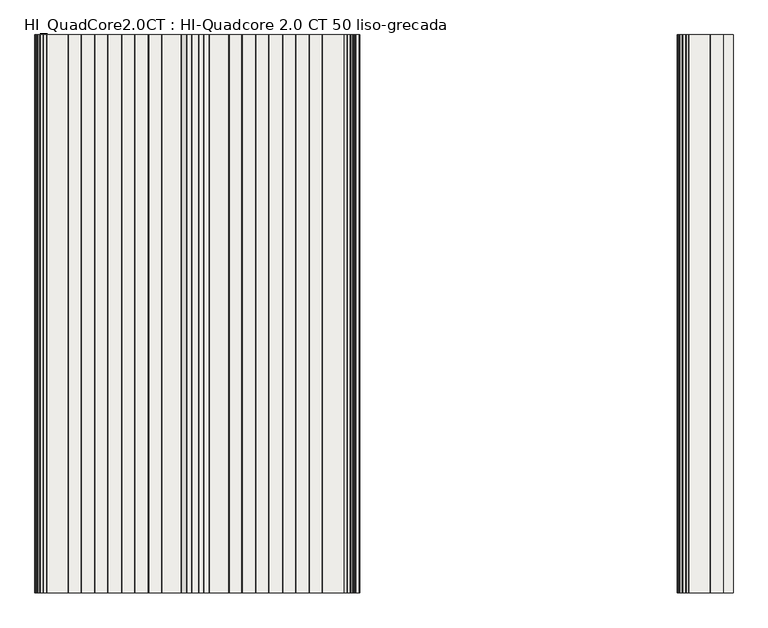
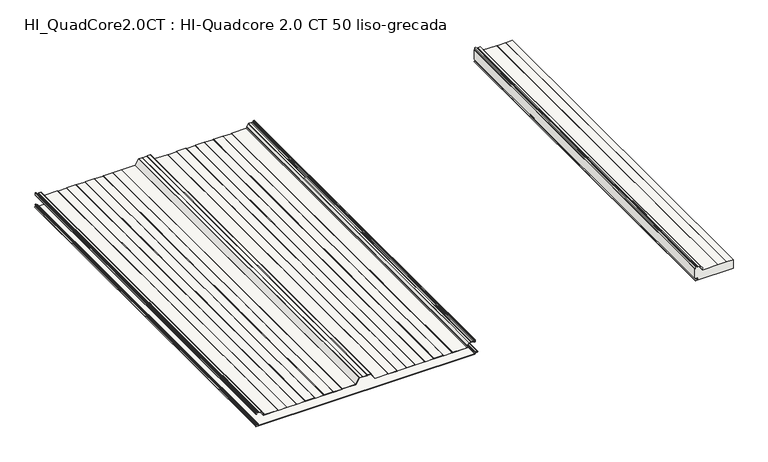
"""IFC4 building model written with IfcOpenShell, lengths in millimetres: slab geometry, HI_QuadCore2.0CT : HI-Quadcore 2.0 CT 50 liso-grecada."""

from ifc_helpers import new_model, si_unit, point, frame, frame_2d, origin, place, context, project, spatial, polyline, circle_curve, trimmed, segment, composite_curve, outline, extrude, source, transform, mapped, element, save
from ifc_brep_helpers import plane_surface, cylinder_surface, revolved_surface, advanced_brep


def hi_quadcore2_0ct_hi_quadcore_2_0_ct_50_liso_grecada_d0412549(model_context):
    return source(origin(), model_context, "Body", "SolidModel", [
        advanced_brep(
        [(2305.1475465, 0.0, 65.7425833), (2301.3824194, 0.0, 67.9163804), (2300.0, 0.0, 67.9163804), (2300.0, 0.0, 16.239302), (2307.510215, 0.0, 16.239302), (2307.510215, 0.0, 15.4391074), (2303.6125693, 0.0, 15.4391074), (2302.4319301, 0.0, 14.2584682), (2303.4276302, 0.0, 13.0866965), (2311.8278581, 0.0, 11.7547343), (2311.7995989, 0.0, 4.4809044), (2301.8467032, 0.0, 2.9844289), (2302.0100062, 0.0, 0.8), (2500.0, 0.0, 0.8), (2500.0, 0.0, 49.2), (2467.3816122, 0.0, 49.2), (2465.6495614, 0.0, 48.2), (2420.6152775, 0.0, 48.2), (2418.8832267, 0.0, 49.2), (2342.7795617, 0.0, 49.2), (2339.9577511, 0.0, 56.2744555), (2340.9081159, 0.0, 57.0692788), (2341.1089583, 0.0, 58.5361221), (2331.7709236, 0.0, 72.1230469), (2330.8643848, 0.0, 72.6), (2321.5371875, 0.0, 72.6), (2319.8324194, 0.0, 71.8110374), (2318.1276514, 0.0, 72.6), (2311.4016791, 0.0, 72.6), (2309.2490397, 0.0, 74.0383476), (2307.3922843, 0.0, 78.5209518), (2306.3760168, 0.0, 79.2), (2302.7824194, 0.0, 79.2), (2301.6824194, 0.0, 78.1), (2301.6824194, 0.0, 68.6669358), (2305.5475465, 0.0, 66.4354036), (2305.1475465, 2000.0, 65.7425833), (2305.5475465, 2000.0, 66.4354036), (2301.6824194, 2000.0, 68.6669358), (2301.6824194, 2000.0, 78.1), (2302.7824194, 2000.0, 79.2), (2306.3760168, 2000.0, 79.2), (2307.3922843, 2000.0, 78.5209518), (2309.2490397, 2000.0, 74.0383476), (2311.4016791, 2000.0, 72.6), (2318.1276514, 2000.0, 72.6), (2319.8324194, 2000.0, 71.8110374), (2321.5371875, 2000.0, 72.6), (2330.8643848, 2000.0, 72.6), (2331.7709236, 2000.0, 72.1230469), (2341.1089583, 2000.0, 58.5361221), (2340.9081159, 2000.0, 57.0692788), (2339.9577511, 2000.0, 56.2744555), (2342.7795617, 2000.0, 49.2), (2418.8832267, 2000.0, 49.2), (2420.6152775, 2000.0, 48.2), (2465.6495614, 2000.0, 48.2), (2467.3816122, 2000.0, 49.2), (2500.0, 2000.0, 49.2), (2500.0, 2000.0, 0.8), (2302.0100062, 2000.0, 0.8), (2301.8467032, 2000.0, 2.9844289), (2311.7995989, 2000.0, 4.4809044), (2311.8278581, 2000.0, 11.7547343), (2303.4273037, 2000.0, 13.0846342), (2302.4319301, 2000.0, 14.2584682), (2303.6125693, 2000.0, 15.4391074), (2307.510215, 2000.0, 15.4391074), (2307.510215, 2000.0, 16.239302), (2300.0, 2000.0, 16.239302), (2300.0, 2000.0, 67.9163804), (2301.3824194, 2000.0, 67.9163804)],
        [
            (0, 1),
            (1, 2),
            (2, 3),
            (3, 4),
            (4, 5),
            (5, 6),
            (6, 7, circle_curve(frame((2303.6125693, 0.0, 14.2584682), z_axis=(0.0, -1.0, 0.0), x_axis=(1.0, 0.0, 0.0)), 1.1806391)),
            (7, 8, circle_curve(frame((2303.6121809, 0.0, 14.2524448), z_axis=(0.0, -1.0, 0.0), x_axis=(1.0, 0.0, 0.0)), 1.1802661)),
            (8, 9),
            (9, 10, circle_curve(frame((2311.2524398, 0.0, 8.12), z_axis=(0.0, 1.0, 0.0), x_axis=(1.0, 0.0, 0.0)), 3.68)),
            (10, 11),
            (11, 12, circle_curve(frame((2302.0100062, 0.0, 1.8983185), z_axis=(0.0, -1.0, 0.0), x_axis=(1.0, 0.0, 0.0)), 1.0983185)),
            (12, 13),
            (13, 14),
            (14, 15),
            (15, 16),
            (16, 17),
            (17, 18),
            (18, 19),
            (19, 20, circle_curve(frame((2342.7795617, 0.0, 53.3), z_axis=(0.0, 1.0, 0.0), x_axis=(1.0, 0.0, 0.0)), 4.1)),
            (20, 21),
            (21, 22, circle_curve(frame((2340.2024195, 0.0, 57.9130752), z_axis=(0.0, -1.0, 0.0), x_axis=(1.0, 0.0, 0.0)), 1.1)),
            (22, 23),
            (23, 24, circle_curve(frame((2330.8643848, 0.0, 71.5), z_axis=(0.0, -1.0, 0.0), x_axis=(1.0, 0.0, 0.0)), 1.1)),
            (24, 25),
            (25, 26),
            (26, 27),
            (27, 28),
            (28, 29, circle_curve(frame((2311.4016791, 0.0, 74.93), z_axis=(0.0, 1.0, 0.0), x_axis=(1.0, 0.0, 0.0)), 2.33)),
            (29, 30),
            (30, 31, circle_curve(frame((2306.3760168, 0.0, 78.1), z_axis=(0.0, -1.0, 0.0), x_axis=(1.0, 0.0, 0.0)), 1.1)),
            (31, 32),
            (32, 33, circle_curve(frame((2302.7824194, 0.0, 78.1), z_axis=(0.0, -1.0, 0.0), x_axis=(1.0, 0.0, 0.0)), 1.1)),
            (33, 34),
            (34, 35),
            (35, 0),
            (36, 37),
            (37, 38),
            (38, 39),
            (39, 40, circle_curve(frame((2302.7824194, 2000.0, 78.1), z_axis=(0.0, 1.0, 0.0), x_axis=(1.0, 0.0, 0.0)), 1.1)),
            (40, 41),
            (41, 42, circle_curve(frame((2306.3760168, 2000.0, 78.1), z_axis=(0.0, 1.0, 0.0), x_axis=(1.0, 0.0, 0.0)), 1.1)),
            (42, 43),
            (43, 44, circle_curve(frame((2311.4016791, 2000.0, 74.93), z_axis=(0.0, -1.0, 0.0), x_axis=(1.0, 0.0, 0.0)), 2.33)),
            (44, 45),
            (45, 46),
            (46, 47),
            (47, 48),
            (48, 49, circle_curve(frame((2330.8643848, 2000.0, 71.5), z_axis=(0.0, 1.0, 0.0), x_axis=(1.0, 0.0, 0.0)), 1.1)),
            (49, 50),
            (50, 51, circle_curve(frame((2340.2024195, 2000.0, 57.9130752), z_axis=(0.0, 1.0, 0.0), x_axis=(1.0, 0.0, 0.0)), 1.1)),
            (51, 52),
            (52, 53, circle_curve(frame((2342.7795617, 2000.0, 53.3), z_axis=(0.0, -1.0, 0.0), x_axis=(1.0, 0.0, 0.0)), 4.1)),
            (53, 54),
            (54, 55),
            (55, 56),
            (56, 57),
            (57, 58),
            (58, 59),
            (59, 60),
            (60, 61, circle_curve(frame((2302.0100062, 2000.0, 1.8983185), z_axis=(0.0, 1.0, 0.0), x_axis=(1.0, 0.0, 0.0)), 1.0983185)),
            (61, 62),
            (62, 63, circle_curve(frame((2311.2524398, 2000.0, 8.12), z_axis=(0.0, -1.0, 0.0), x_axis=(1.0, 0.0, 0.0)), 3.68)),
            (63, 64),
            (64, 65, circle_curve(frame((2303.6121809, 2000.0, 14.2524448), z_axis=(0.0, 1.0, 0.0), x_axis=(1.0, 0.0, 0.0)), 1.1802661)),
            (65, 66, circle_curve(frame((2303.6125693, 2000.0, 14.2584682), z_axis=(0.0, 1.0, 0.0), x_axis=(1.0, 0.0, 0.0)), 1.1806391)),
            (66, 67),
            (67, 68),
            (68, 69),
            (69, 70),
            (70, 71),
            (71, 36),
            (0, 36),
            (71, 1),
            (70, 2),
            (69, 3),
            (57, 15),
            (14, 58),
            (56, 16),
            (55, 17),
            (54, 18),
            (53, 19),
            (52, 20),
            (51, 21),
            (50, 22),
            (49, 23),
            (48, 24),
            (47, 25),
            (46, 26),
            (45, 27),
            (44, 28),
            (43, 29),
            (42, 30),
            (41, 31),
            (40, 32),
            (39, 33),
            (38, 34),
            (37, 35),
            (68, 4),
            (67, 5),
            (66, 6),
            (65, 7),
            (64, 8),
            (63, 9),
            (62, 10),
            (61, 11),
            (60, 12),
            (59, 13),
        ],
        [
            plane_surface(frame((2301.3824194, 0.0, 67.9163804), z_axis=(0.0, -1.0, 0.0), x_axis=(-0.8660254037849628, 0.0, 0.49999999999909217))),
            plane_surface(frame((2301.3824194, 2000.0, 67.9163804), z_axis=(0.0, 1.0, 0.0), x_axis=(0.8660254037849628, 0.0, -0.49999999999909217))),
            plane_surface(frame((2305.1475465, 0.0, 65.7425833), z_axis=(0.49999999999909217, 0.0, 0.8660254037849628), x_axis=(0.0, 1.0, 0.0))),
            plane_surface(frame((2301.3824194, 0.0, 67.9163804), z_axis=(0.0, 0.0, 1.0), x_axis=(0.0, 1.0, 0.0))),
            plane_surface(frame((2300.0, 0.0, 67.9163804), z_axis=(-1.0, 0.0, 0.0), x_axis=(0.0, 1.0, 0.0))),
            plane_surface(frame((2514.8832267, 0.0, 49.2), z_axis=(0.0, 0.0, 1.0), x_axis=(0.0, 1.0, 0.0))),
            plane_surface(frame((2467.3816122, 0.0, 49.2), z_axis=(-0.5000000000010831, 0.0, 0.8660254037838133), x_axis=(0.0, 1.0, 0.0))),
            plane_surface(frame((2465.6495614, 0.0, 48.2), z_axis=(0.0, 0.0, 1.0), x_axis=(0.0, 1.0, 0.0))),
            plane_surface(frame((2420.6152775, 0.0, 48.2), z_axis=(0.4999999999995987, 0.0, 0.8660254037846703), x_axis=(0.0, 1.0, 0.0))),
            plane_surface(frame((2418.8832267, 0.0, 49.2), z_axis=(0.0, 0.0, 1.0), x_axis=(0.0, 1.0, 0.0))),
            revolved_surface(polyline([(2346.8795617, 2000.0, 53.3), (2346.8795617, 0.0, 53.3)]), (2342.7795617, 2000.0, 53.3), (0.0, 1.0, 0.0)),
            plane_surface(frame((2339.9577511, 0.0, 56.2744555), z_axis=(0.6415422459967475, 0.0, -0.7670877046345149), x_axis=(0.0, 1.0, 0.0))),
            cylinder_surface(frame((2340.2024195, 2000.0, 57.9130752), z_axis=(0.0, -1.0, 0.0), x_axis=(1.0, 0.0, 0.0)), 1.1),
            plane_surface(frame((2341.1089583, 0.0, 58.5361221), z_axis=(0.8241261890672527, 0.0, 0.5664062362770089), x_axis=(0.0, 1.0, 0.0))),
            cylinder_surface(frame((2330.8643848, 2000.0, 71.5), z_axis=(0.0, -1.0, 0.0), x_axis=(1.0, 0.0, 0.0)), 1.1),
            plane_surface(frame((2330.8643848, 0.0, 72.6), z_axis=(0.0, 0.0, 1.0), x_axis=(0.0, 1.0, 0.0))),
            plane_surface(frame((2321.5371875, 0.0, 72.6), z_axis=(-0.4199999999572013, 0.0, 0.9075241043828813), x_axis=(0.0, 1.0, 0.0))),
            plane_surface(frame((2319.8324194, 0.0, 71.8110374), z_axis=(0.4200000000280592, 0.0, 0.9075241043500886), x_axis=(0.0, 1.0, 0.0))),
            plane_surface(frame((2318.1276514, 0.0, 72.6), z_axis=(0.0, 0.0, 1.0), x_axis=(0.0, 1.0, 0.0))),
            revolved_surface(polyline([(2313.7316791, 2000.0, 74.93), (2313.7316791, 0.0, 74.93)]), (2311.4016791, 2000.0, 74.93), (0.0, 1.0, 0.0)),
            plane_surface(frame((2309.2490397, 0.0, 74.0383476), z_axis=(0.9238795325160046, 0.0, 0.3826834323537), x_axis=(0.0, 1.0, 0.0))),
            cylinder_surface(frame((2306.3760168, 2000.0, 78.1), z_axis=(0.0, -1.0, 0.0), x_axis=(1.0, 0.0, 0.0)), 1.1),
            plane_surface(frame((2306.3760168, 0.0, 79.2), z_axis=(0.0, 0.0, 1.0), x_axis=(0.0, 1.0, 0.0))),
            cylinder_surface(frame((2302.7824194, 2000.0, 78.1), z_axis=(0.0, -1.0, 0.0), x_axis=(1.0, 0.0, 0.0)), 1.1),
            plane_surface(frame((2301.6824194, 0.0, 78.1), z_axis=(-1.0, 0.0, 0.0), x_axis=(0.0, 1.0, 0.0))),
            plane_surface(frame((2301.6824194, 0.0, 68.6669358), z_axis=(-0.49999999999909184, 0.0, -0.866025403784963), x_axis=(0.0, 1.0, 0.0))),
            plane_surface(frame((2305.5475465, 0.0, 66.4354036), z_axis=(-0.866025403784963, 0.0, 0.4999999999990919), x_axis=(0.0, 1.0, 0.0))),
            plane_surface(frame((2300.0, 0.0, 16.239302), z_axis=(0.0, 0.0, -1.0), x_axis=(0.0, 1.0, 0.0))),
            plane_surface(frame((2307.510215, 0.0, 16.239302), z_axis=(-1.0, 0.0, 0.0), x_axis=(0.0, 1.0, 0.0))),
            plane_surface(frame((2307.510215, 0.0, 15.4391074), z_axis=(0.0, 0.0, 1.0), x_axis=(0.0, 1.0, 0.0))),
            cylinder_surface(frame((2303.6125693, 2000.0, 14.2584682), z_axis=(0.0, -1.0, 0.0), x_axis=(1.0, 0.0, 0.0)), 1.1806391),
            cylinder_surface(frame((2303.6121809, 2000.0, 14.2524448), z_axis=(0.0, -1.0, 0.0), x_axis=(1.0, 0.0, 0.0)), 1.1802661),
            plane_surface(frame((2303.4273037, 0.0, 13.0846342), z_axis=(-0.1563636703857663, 0.0, -0.9876995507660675), x_axis=(0.0, 1.0, 0.0))),
            revolved_surface(polyline([(2314.9324398, 2000.0, 8.12), (2314.9324398, 0.0, 8.12)]), (2311.2524398, 2000.0, 8.12), (0.0, 1.0, 0.0)),
            plane_surface(frame((2311.7995989, 0.0, 4.4809044), z_axis=(-0.14868453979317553, 0.0, 0.9888846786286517), x_axis=(0.0, 1.0, 0.0))),
            cylinder_surface(frame((2302.0100062, 2000.0, 1.8983185), z_axis=(0.0, -1.0, 0.0), x_axis=(1.0, 0.0, 0.0)), 1.0983185),
            plane_surface(frame((2302.0100062, 0.0, 0.8), z_axis=(0.0, 0.0, -1.0), x_axis=(0.0, 1.0, 0.0))),
            plane_surface(frame((2500.0, 0.0, 96.2714688), z_axis=(1.0, 0.0, 0.0), x_axis=(0.0, 1.0, 0.0))),
        ],
        [
            (0, [[1, 2, 3, 4, 5, 6, 7, 8, 9, 10, 11, 12, 13, 14, 15, 16, 17, 18, 19, 20, 21, 22, 23, 24, 25, 26, 27, 28, 29, 30, 31, 32, 33, 34, 35, 36]]),
            (1, [[37, 38, 39, 40, 41, 42, 43, 44, 45, 46, 47, 48, 49, 50, 51, 52, 53, 54, 55, 56, 57, 58, 59, 60, 61, 62, 63, 64, 65, 66, 67, 68, 69, 70, 71, 72]]),
            (2, [[-1, 73, -72, 74]]),
            (3, [[-2, -74, -71, 75]]),
            (4, [[-75, -70, 76, -3]]),
            (5, [[77, -15, 78, -58]]),
            (6, [[-16, -77, -57, 79]]),
            (7, [[-17, -79, -56, 80]]),
            (8, [[-18, -80, -55, 81]]),
            (9, [[-19, -81, -54, 82]]),
            (10, [[-20, -82, -53, 83]]),
            (11, [[-21, -83, -52, 84]]),
            (12, [[-22, -84, -51, 85]]),
            (13, [[-23, -85, -50, 86]]),
            (14, [[-24, -86, -49, 87]]),
            (15, [[-25, -87, -48, 88]]),
            (16, [[-26, -88, -47, 89]]),
            (17, [[-27, -89, -46, 90]]),
            (18, [[-28, -90, -45, 91]]),
            (19, [[-29, -91, -44, 92]]),
            (20, [[-30, -92, -43, 93]]),
            (21, [[-31, -93, -42, 94]]),
            (22, [[-32, -94, -41, 95]]),
            (23, [[-33, -95, -40, 96]]),
            (24, [[-34, -96, -39, 97]]),
            (25, [[-35, -97, -38, 98]]),
            (26, [[-36, -98, -37, -73]]),
            (27, [[-76, -69, 99, -4]]),
            (28, [[-5, -99, -68, 100]]),
            (29, [[-6, -100, -67, 101]]),
            (30, [[-7, -101, -66, 102]]),
            (31, [[-8, -102, -65, 103]]),
            (32, [[-9, -103, -64, 104]]),
            (33, [[-10, -104, -63, 105]]),
            (34, [[-11, -105, -62, 106]]),
            (35, [[-12, -106, -61, 107]]),
            (36, [[-107, -60, 108, -13]]),
            (37, [[-14, -108, -59, -78]]),
        ],
    ),
        advanced_brep(
        [(3.6125412, 0.0, 16.239302), (1.6320413, 0.0, 14.2588021), (3.3026044, 0.0, 12.2960661), (11.7027672, 0.0, 10.9645747), (11.6806488, 0.0, 5.2720118), (1.7277556, 0.0, 3.7755366), (2.0100062, 0.0, 0.0), (1147.9590685, 0.0, 0.0), (1150.1391392, 0.0, 2.1800708), (1152.6636211, 0.0, 5.0353254), (1160.9083654, 0.0, 6.0356531), (1160.9083654, 0.0, 10.2043469), (1150.9419234, 0.0, 11.413338), (1148.6324398, 0.0, 14.0237344), (1147.5187526, 0.0, 16.24), (1142.7624398, 0.0, 16.24), (1142.7624398, 0.0, 15.44), (1147.2282701, 0.0, 15.44), (1147.8324398, 0.0, 14.0237344), (1150.8450446, 0.0, 10.6192254), (1160.7843299, 0.0, 9.4135286), (1160.7843221, 0.0, 6.8264698), (1152.5664905, 0.0, 5.8294074), (1149.3391392, 0.0, 2.1800708), (1147.9590685, 0.0, 0.8), (2.0100062, 0.0, 0.8), (1.8467032, 0.0, 2.9844289), (11.7995989, 0.0, 4.4809044), (11.8278581, 0.0, 11.7547343), (3.4279307, 0.0, 13.084535), (2.4319301, 0.0, 14.2584682), (3.6125693, 0.0, 15.4391074), (7.510215, 0.0, 15.4391074), (7.510215, 0.0, 16.239302), (3.6125412, 2000.0, 16.239302), (7.510215, 2000.0, 16.239302), (7.510215, 2000.0, 15.4391074), (3.6125693, 2000.0, 15.4391074), (2.4319301, 2000.0, 14.2584682), (3.4276302, 2000.0, 13.0866965), (11.8278581, 2000.0, 11.7547343), (11.7995989, 2000.0, 4.4809044), (1.8467032, 2000.0, 2.9844289), (2.0100062, 2000.0, 0.8), (1147.9590685, 2000.0, 0.8), (1149.3391392, 2000.0, 2.1800708), (1152.5664905, 2000.0, 5.8294074), (1160.7843221, 2000.0, 6.8264698), (1160.7843299, 2000.0, 9.4135286), (1150.8450446, 2000.0, 10.6192254), (1147.8324398, 2000.0, 14.0237344), (1147.2282701, 2000.0, 15.44), (1142.7624398, 2000.0, 15.44), (1142.7624398, 2000.0, 16.24), (1147.5187526, 2000.0, 16.24), (1148.6324398, 2000.0, 14.0237344), (1150.9419234, 2000.0, 11.413338), (1160.9083654, 2000.0, 10.2043469), (1160.9083654, 2000.0, 6.0356531), (1152.6636211, 2000.0, 5.0353254), (1150.1391392, 2000.0, 2.1800708), (1147.9590685, 2000.0, 0.0), (2.0100062, 2000.0, 0.0), (1.7277556, 2000.0, 3.7755366), (11.6806488, 2000.0, 5.2720118), (11.7027672, 2000.0, 10.9645747), (3.3028397, 2000.0, 12.2943753), (1.6320413, 2000.0, 14.2588021)],
        [
            (0, 1, circle_curve(frame((3.6125412, 0.0, 14.2588021), z_axis=(0.0, -1.0, 0.0), x_axis=(1.0, 0.0, 0.0)), 1.9804999)),
            (1, 2, circle_curve(frame((3.612237, 0.0, 14.2519163), z_axis=(0.0, -1.0, 0.0), x_axis=(1.0, 0.0, 0.0)), 1.9802076)),
            (2, 3),
            (3, 4, circle_curve(frame((11.2524398, 0.0, 8.12), z_axis=(0.0, 1.0, 0.0), x_axis=(1.0, 0.0, 0.0)), 2.88)),
            (4, 5),
            (5, 6, circle_curve(frame((2.0100062, 0.0, 1.8983185), z_axis=(0.0, -1.0, 0.0), x_axis=(1.0, 0.0, 0.0)), 1.8983185)),
            (6, 7),
            (7, 8, circle_curve(frame((1147.9590685, 0.0, 2.1800708), z_axis=(0.0, -1.0, 0.0), x_axis=(1.0, 0.0, 0.0)), 2.1800708)),
            (8, 9, circle_curve(frame((1153.0160638, 0.0, 2.1800708), z_axis=(0.0, 1.0, 0.0), x_axis=(1.0, 0.0, 0.0)), 2.8769246)),
            (9, 10),
            (10, 11, circle_curve(frame((1160.5224398, 0.0, 8.12), z_axis=(0.0, -1.0, 0.0), x_axis=(1.0, 0.0, 0.0)), 2.1197737)),
            (11, 12),
            (12, 13, circle_curve(frame((1151.2624398, 0.0, 14.0237344), z_axis=(0.0, 1.0, 0.0), x_axis=(1.0, 0.0, 0.0)), 2.63)),
            (13, 14, circle_curve(frame((1145.8703839, 0.0, 14.0237344), z_axis=(0.0, -1.0, 0.0), x_axis=(1.0, 0.0, 0.0)), 2.7620559)),
            (14, 15),
            (15, 16),
            (16, 17),
            (17, 18, circle_curve(frame((1145.8703839, 0.0, 14.0237344), z_axis=(0.0, 1.0, 0.0), x_axis=(1.0, 0.0, 0.0)), 1.9620559)),
            (18, 19, circle_curve(frame((1151.2624398, 0.0, 14.0237344), z_axis=(0.0, -1.0, 0.0), x_axis=(1.0, 0.0, 0.0)), 3.43)),
            (19, 20),
            (20, 21, circle_curve(frame((1160.5224398, 0.0, 8.12), z_axis=(0.0, 1.0, 0.0), x_axis=(1.0, 0.0, 0.0)), 1.3197737)),
            (21, 22),
            (22, 23, circle_curve(frame((1153.0160638, 0.0, 2.1800708), z_axis=(0.0, -1.0, 0.0), x_axis=(1.0, 0.0, 0.0)), 3.6769246)),
            (23, 24, circle_curve(frame((1147.9590685, 0.0, 2.1800708), z_axis=(0.0, 1.0, 0.0), x_axis=(1.0, 0.0, 0.0)), 1.3800708)),
            (24, 25),
            (25, 26, circle_curve(frame((2.0100062, 0.0, 1.8983185), z_axis=(0.0, 1.0, 0.0), x_axis=(1.0, 0.0, 0.0)), 1.0983185)),
            (26, 27),
            (27, 28, circle_curve(frame((11.2524398, 0.0, 8.12), z_axis=(0.0, -1.0, 0.0), x_axis=(1.0, 0.0, 0.0)), 3.68)),
            (28, 29),
            (29, 30, circle_curve(frame((3.6121809, 0.0, 14.2524448), z_axis=(0.0, 1.0, 0.0), x_axis=(1.0, 0.0, 0.0)), 1.1802661)),
            (30, 31, circle_curve(frame((3.6125693, 0.0, 14.2584682), z_axis=(0.0, 1.0, 0.0), x_axis=(1.0, 0.0, 0.0)), 1.1806391)),
            (31, 32),
            (32, 33),
            (33, 0),
            (34, 35),
            (35, 36),
            (36, 37),
            (37, 38, circle_curve(frame((3.6125693, 2000.0, 14.2584682), z_axis=(0.0, -1.0, 0.0), x_axis=(1.0, 0.0, 0.0)), 1.1806391)),
            (38, 39, circle_curve(frame((3.6121809, 2000.0, 14.2524448), z_axis=(0.0, -1.0, 0.0), x_axis=(1.0, 0.0, 0.0)), 1.1802661)),
            (39, 40),
            (40, 41, circle_curve(frame((11.2524398, 2000.0, 8.12), z_axis=(0.0, 1.0, 0.0), x_axis=(1.0, 0.0, 0.0)), 3.68)),
            (41, 42),
            (42, 43, circle_curve(frame((2.0100062, 2000.0, 1.8983185), z_axis=(0.0, -1.0, 0.0), x_axis=(1.0, 0.0, 0.0)), 1.0983185)),
            (43, 44),
            (44, 45, circle_curve(frame((1147.9590685, 2000.0, 2.1800708), z_axis=(0.0, -1.0, 0.0), x_axis=(1.0, 0.0, 0.0)), 1.3800708)),
            (45, 46, circle_curve(frame((1153.0160638, 2000.0, 2.1800708), z_axis=(0.0, 1.0, 0.0), x_axis=(1.0, 0.0, 0.0)), 3.6769246)),
            (46, 47),
            (47, 48, circle_curve(frame((1160.5224398, 2000.0, 8.12), z_axis=(0.0, -1.0, 0.0), x_axis=(1.0, 0.0, 0.0)), 1.3197737)),
            (48, 49),
            (49, 50, circle_curve(frame((1151.2624398, 2000.0, 14.0237344), z_axis=(0.0, 1.0, 0.0), x_axis=(1.0, 0.0, 0.0)), 3.43)),
            (50, 51, circle_curve(frame((1145.8703839, 2000.0, 14.0237344), z_axis=(0.0, -1.0, 0.0), x_axis=(1.0, 0.0, 0.0)), 1.9620559)),
            (51, 52),
            (52, 53),
            (53, 54),
            (54, 55, circle_curve(frame((1145.8703839, 2000.0, 14.0237344), z_axis=(0.0, 1.0, 0.0), x_axis=(1.0, 0.0, 0.0)), 2.7620559)),
            (55, 56, circle_curve(frame((1151.2624398, 2000.0, 14.0237344), z_axis=(0.0, -1.0, 0.0), x_axis=(1.0, 0.0, 0.0)), 2.63)),
            (56, 57),
            (57, 58, circle_curve(frame((1160.5224398, 2000.0, 8.12), z_axis=(0.0, 1.0, 0.0), x_axis=(1.0, 0.0, 0.0)), 2.1197737)),
            (58, 59),
            (59, 60, circle_curve(frame((1153.0160638, 2000.0, 2.1800708), z_axis=(0.0, -1.0, 0.0), x_axis=(1.0, 0.0, 0.0)), 2.8769246)),
            (60, 61, circle_curve(frame((1147.9590685, 2000.0, 2.1800708), z_axis=(0.0, 1.0, 0.0), x_axis=(1.0, 0.0, 0.0)), 2.1800708)),
            (61, 62),
            (62, 63, circle_curve(frame((2.0100062, 2000.0, 1.8983185), z_axis=(0.0, 1.0, 0.0), x_axis=(1.0, 0.0, 0.0)), 1.8983185)),
            (63, 64),
            (64, 65, circle_curve(frame((11.2524398, 2000.0, 8.12), z_axis=(0.0, -1.0, 0.0), x_axis=(1.0, 0.0, 0.0)), 2.88)),
            (65, 66),
            (66, 67, circle_curve(frame((3.612237, 2000.0, 14.2519163), z_axis=(0.0, 1.0, 0.0), x_axis=(1.0, 0.0, 0.0)), 1.9802076)),
            (67, 34, circle_curve(frame((3.6125412, 2000.0, 14.2588021), z_axis=(0.0, 1.0, 0.0), x_axis=(1.0, 0.0, 0.0)), 1.9804999)),
            (0, 34),
            (67, 1),
            (66, 2),
            (65, 3),
            (64, 4),
            (63, 5),
            (62, 6),
            (61, 7),
            (60, 8),
            (59, 9),
            (58, 10),
            (57, 11),
            (56, 12),
            (55, 13),
            (54, 14),
            (53, 15),
            (52, 16),
            (51, 17),
            (50, 18),
            (49, 19),
            (48, 20),
            (47, 21),
            (46, 22),
            (45, 23),
            (44, 24),
            (43, 25),
            (42, 26),
            (41, 27),
            (40, 28),
            (39, 29),
            (38, 30),
            (37, 31),
            (36, 32),
            (35, 33),
        ],
        [
            plane_surface(frame((5.5930411, 0.0, 14.2588021), z_axis=(0.0, -1.0, 0.0), x_axis=(0.0, 0.0, 1.0))),
            plane_surface(frame((5.5930411, 2000.0, 14.2588021), z_axis=(0.0, 1.0, 0.0), x_axis=(0.0, 0.0, -1.0))),
            cylinder_surface(frame((3.6125412, 2000.0, 14.2588021), z_axis=(0.0, -1.0, 0.0), x_axis=(1.0, 0.0, 0.0)), 1.9804999),
            cylinder_surface(frame((3.612237, 2000.0, 14.2519163), z_axis=(0.0, -1.0, 0.0), x_axis=(1.0, 0.0, 0.0)), 1.9802076),
            plane_surface(frame((3.3028397, 0.0, 12.2943753), z_axis=(-0.15636367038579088, 0.0, -0.9876995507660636), x_axis=(0.0, 1.0, 0.0))),
            revolved_surface(polyline([(14.1324398, 2000.0, 8.12), (14.1324398, 0.0, 8.12)]), (11.2524398, 2000.0, 8.12), (0.0, 1.0, 0.0)),
            plane_surface(frame((11.6806488, 0.0, 5.2720118), z_axis=(-0.14868453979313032, 0.0, 0.9888846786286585), x_axis=(0.0, 1.0, 0.0))),
            cylinder_surface(frame((2.0100062, 2000.0, 1.8983185), z_axis=(0.0, -1.0, 0.0), x_axis=(1.0, 0.0, 0.0)), 1.8983185),
            plane_surface(frame((2.0100062, 0.0, 0.0), z_axis=(0.0, 0.0, -1.0), x_axis=(0.0, 1.0, 0.0))),
            cylinder_surface(frame((1147.9590685, 2000.0, 2.1800708), z_axis=(0.0, -1.0, 0.0), x_axis=(1.0, 0.0, 0.0)), 2.1800708),
            revolved_surface(polyline([(1155.8929884, 2000.0, 2.1800708), (1155.8929884, 0.0, 2.1800708)]), (1153.0160638, 2000.0, 2.1800708), (0.0, 1.0, 0.0)),
            plane_surface(frame((1152.6636211, 0.0, 5.0353254), z_axis=(0.12044584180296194, 0.0, -0.9927198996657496), x_axis=(0.0, 1.0, 0.0))),
            cylinder_surface(frame((1160.5224398, 2000.0, 8.12), z_axis=(0.0, -1.0, 0.0), x_axis=(1.0, 0.0, 0.0)), 2.1197737),
            plane_surface(frame((1160.9083654, 0.0, 10.2043469), z_axis=(0.12042339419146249, 0.0, 0.9927226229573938), x_axis=(0.0, 1.0, 0.0))),
            revolved_surface(polyline([(1153.8924398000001, 2000.0, 14.0237344), (1153.8924398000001, 0.0, 14.0237344)]), (1151.2624398, 2000.0, 14.0237344), (0.0, 1.0, 0.0)),
            cylinder_surface(frame((1145.8703839, 2000.0, 14.0237344), z_axis=(0.0, -1.0, 0.0), x_axis=(1.0, 0.0, 0.0)), 2.7620559),
            plane_surface(frame((1147.5187526, 0.0, 16.24), z_axis=(0.0, 0.0, 1.0), x_axis=(0.0, 1.0, 0.0))),
            plane_surface(frame((1142.7624398, 0.0, 16.24), z_axis=(-1.0, 0.0, 0.0), x_axis=(0.0, 1.0, 0.0))),
            plane_surface(frame((1142.7624398, 0.0, 15.44), z_axis=(0.0, 0.0, -1.0), x_axis=(0.0, 1.0, 0.0))),
            revolved_surface(polyline([(1147.8324398, 2000.0, 14.0237344), (1147.8324398, 0.0, 14.0237344)]), (1145.8703839, 2000.0, 14.0237344), (0.0, 1.0, 0.0)),
            cylinder_surface(frame((1151.2624398, 2000.0, 14.0237344), z_axis=(0.0, -1.0, 0.0), x_axis=(1.0, 0.0, 0.0)), 3.43),
            plane_surface(frame((1150.8450446, 0.0, 10.6192254), z_axis=(-0.12042339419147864, 0.0, -0.9927226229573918), x_axis=(0.0, 1.0, 0.0))),
            revolved_surface(polyline([(1161.8422135, 2000.0, 8.12), (1161.8422135, 0.0, 8.12)]), (1160.5224398, 2000.0, 8.12), (0.0, 1.0, 0.0)),
            plane_surface(frame((1160.7843221, 0.0, 6.8264698), z_axis=(-0.12044584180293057, 0.0, 0.9927198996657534), x_axis=(0.0, 1.0, 0.0))),
            cylinder_surface(frame((1153.0160638, 2000.0, 2.1800708), z_axis=(0.0, -1.0, 0.0), x_axis=(1.0, 0.0, 0.0)), 3.6769246),
            revolved_surface(polyline([(1149.3391393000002, 2000.0, 2.1800708), (1149.3391393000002, 0.0, 2.1800708)]), (1147.9590685, 2000.0, 2.1800708), (0.0, 1.0, 0.0)),
            plane_surface(frame((1147.9590685, 0.0, 0.8), z_axis=(0.0, 0.0, 1.0), x_axis=(0.0, 1.0, 0.0))),
            revolved_surface(polyline([(3.1083247, 2000.0, 1.8983185), (3.1083247, 0.0, 1.8983185)]), (2.0100062, 2000.0, 1.8983185), (0.0, 1.0, 0.0)),
            plane_surface(frame((1.8467032, 0.0, 2.9844289), z_axis=(0.14868453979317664, 0.0, -0.9888846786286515), x_axis=(0.0, 1.0, 0.0))),
            cylinder_surface(frame((11.2524398, 2000.0, 8.12), z_axis=(0.0, -1.0, 0.0), x_axis=(1.0, 0.0, 0.0)), 3.68),
            plane_surface(frame((11.8278581, 0.0, 11.7547343), z_axis=(0.15636367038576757, 0.0, 0.9876995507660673), x_axis=(0.0, 1.0, 0.0))),
            revolved_surface(polyline([(4.792447, 2000.0, 14.2524448), (4.792447, 0.0, 14.2524448)]), (3.6121809, 2000.0, 14.2524448), (0.0, 1.0, 0.0)),
            revolved_surface(polyline([(4.7932084, 2000.0, 14.2584682), (4.7932084, 0.0, 14.2584682)]), (3.6125693, 2000.0, 14.2584682), (0.0, 1.0, 0.0)),
            plane_surface(frame((3.6125693, 0.0, 15.4391074), z_axis=(0.0, 0.0, -1.0), x_axis=(0.0, 1.0, 0.0))),
            plane_surface(frame((7.510215, 0.0, 15.4391074), z_axis=(1.0, 0.0, 0.0), x_axis=(0.0, 1.0, 0.0))),
            plane_surface(frame((7.510215, 0.0, 16.239302), z_axis=(0.0, 0.0, 1.0), x_axis=(0.0, 1.0, 0.0))),
        ],
        [
            (0, [[1, 2, 3, 4, 5, 6, 7, 8, 9, 10, 11, 12, 13, 14, 15, 16, 17, 18, 19, 20, 21, 22, 23, 24, 25, 26, 27, 28, 29, 30, 31, 32, 33, 34]]),
            (1, [[35, 36, 37, 38, 39, 40, 41, 42, 43, 44, 45, 46, 47, 48, 49, 50, 51, 52, 53, 54, 55, 56, 57, 58, 59, 60, 61, 62, 63, 64, 65, 66, 67, 68]]),
            (2, [[-1, 69, -68, 70]]),
            (3, [[-2, -70, -67, 71]]),
            (4, [[-3, -71, -66, 72]]),
            (5, [[-4, -72, -65, 73]]),
            (6, [[-5, -73, -64, 74]]),
            (7, [[-6, -74, -63, 75]]),
            (8, [[-7, -75, -62, 76]]),
            (9, [[-8, -76, -61, 77]]),
            (10, [[-9, -77, -60, 78]]),
            (11, [[-10, -78, -59, 79]]),
            (12, [[-11, -79, -58, 80]]),
            (13, [[-12, -80, -57, 81]]),
            (14, [[-13, -81, -56, 82]]),
            (15, [[-14, -82, -55, 83]]),
            (16, [[-15, -83, -54, 84]]),
            (17, [[-16, -84, -53, 85]]),
            (18, [[-17, -85, -52, 86]]),
            (19, [[-18, -86, -51, 87]]),
            (20, [[-19, -87, -50, 88]]),
            (21, [[-20, -88, -49, 89]]),
            (22, [[-21, -89, -48, 90]]),
            (23, [[-22, -90, -47, 91]]),
            (24, [[-23, -91, -46, 92]]),
            (25, [[-24, -92, -45, 93]]),
            (26, [[-25, -93, -44, 94]]),
            (27, [[-26, -94, -43, 95]]),
            (28, [[-27, -95, -42, 96]]),
            (29, [[-28, -96, -41, 97]]),
            (30, [[-29, -97, -40, 98]]),
            (31, [[-30, -98, -39, 99]]),
            (32, [[-31, -99, -38, 100]]),
            (33, [[-32, -100, -37, 101]]),
            (34, [[-33, -101, -36, 102]]),
            (35, [[-34, -102, -35, -69]]),
        ],
    ),
        extrude(outline(composite_curve([segment(polyline([(67.9163804, 1.3824194), (65.7425833, 5.1475465), (66.4354036, 5.5475465), (68.6669358, 1.6824194), (78.1, 1.6824194)]), True, "CONTINUOUS"), segment(trimmed(circle_curve(frame_2d((78.1, 2.7824194)), 1.1), [point((78.1, 1.6824194))], [point((79.2, 2.7824194))], True, "CARTESIAN"), True, "CONTINUOUS"), segment(polyline([(79.2, 2.7824194), (79.2, 6.3760168)]), True, "CONTINUOUS"), segment(trimmed(circle_curve(frame_2d((78.1, 6.3760168)), 1.1), [point((79.2, 6.3760168))], [point((78.5209518, 7.3922843))], True, "CARTESIAN"), True, "CONTINUOUS"), segment(polyline([(78.5209518, 7.3922843), (74.0383476, 9.2490397)]), True, "CONTINUOUS"), segment(trimmed(circle_curve(frame_2d((74.93, 11.4016791)), 2.33), [point((74.0383476, 9.2490397))], [point((72.6, 11.4016791))], False, "CARTESIAN"), True, "CONTINUOUS"), segment(polyline([(72.6, 11.4016791), (72.6, 18.1276514), (71.8110374, 19.8324194), (72.6, 21.5371875), (72.6, 30.8643848)]), True, "CONTINUOUS"), segment(trimmed(circle_curve(frame_2d((71.5, 30.8643848)), 1.1), [point((72.6, 30.8643848))], [point((72.1230469, 31.7709236))], True, "CARTESIAN"), True, "CONTINUOUS"), segment(polyline([(72.1230469, 31.7709236), (58.5361221, 41.1089583)]), True, "CONTINUOUS"), segment(trimmed(circle_curve(frame_2d((57.9130752, 40.2024195)), 1.1), [point((58.5361221, 41.1089583))], [point((57.0692788, 40.9081159))], True, "CARTESIAN"), True, "CONTINUOUS"), segment(polyline([(57.0692788, 40.9081159), (56.2744555, 39.9577511)]), True, "CONTINUOUS"), segment(trimmed(circle_curve(frame_2d((53.3, 42.7795617)), 4.1), [point((56.2744555, 39.9577511))], [point((49.2, 42.7795617))], False, "CARTESIAN"), True, "CONTINUOUS"), segment(polyline([(49.2, 42.7795617), (49.2, 118.8832267), (48.2, 120.6152775), (48.2, 165.6495614), (49.2, 167.3816122), (49.2, 214.8832267), (48.2, 216.6152775), (48.2, 261.6495614), (49.2, 263.3816122), (49.2, 310.8832267), (48.2, 312.6152775), (48.2, 357.6495614), (49.2, 359.3816122), (49.2, 406.8832267), (48.2, 408.6152775), (48.2, 453.6495614), (49.2, 455.3816122), (49.2, 524.3619266)]), True, "CONTINUOUS"), segment(trimmed(circle_curve(frame_2d((51.53, 524.3619266)), 2.33), [point((49.2, 524.3619266))], [point((50.2833287, 526.330355))], False, "CARTESIAN"), True, "CONTINUOUS"), segment(polyline([(50.2833287, 526.330355), (78.6885573, 544.3203331)]), True, "CONTINUOUS"), segment(trimmed(circle_curve(frame_2d((78.1, 545.2496341)), 1.1), [point((78.6885573, 544.3203331))], [point((79.2, 545.2496341))], True, "CARTESIAN"), True, "CONTINUOUS"), segment(polyline([(79.2, 545.2496341), (79.2, 561.3832267), (77.7, 563.9813029), (77.7, 586.283536), (79.2, 588.8816122), (79.2, 605.0152048)]), True, "CONTINUOUS"), segment(trimmed(circle_curve(frame_2d((78.1, 605.0152048)), 1.1), [point((79.2, 605.0152048))], [point((78.6885573, 605.9445057))], True, "CARTESIAN"), True, "CONTINUOUS"), segment(polyline([(78.6885573, 605.9445057), (50.2833287, 623.9344839)]), True, "CONTINUOUS"), segment(trimmed(circle_curve(frame_2d((51.53, 625.9029123)), 2.33), [point((50.2833287, 623.9344839))], [point((49.2, 625.9029123))], False, "CARTESIAN"), True, "CONTINUOUS"), segment(polyline([(49.2, 625.9029123), (49.2, 694.8832267), (48.2, 696.6152775), (48.2, 741.6495614), (49.2, 743.3816122), (49.2, 790.8832267), (48.2, 792.6152775), (48.2, 837.6495614), (49.2, 839.3816122), (49.2, 886.8832267), (48.2, 888.6152775), (48.2, 933.6495614), (49.2, 935.3816122), (49.2, 982.8832267), (48.2, 984.6152775), (48.2, 1029.6495614), (49.2, 1031.3816122), (49.2, 1107.4852773)]), True, "CONTINUOUS"), segment(trimmed(circle_curve(frame_2d((53.3, 1107.4852773)), 4.1), [point((49.2, 1107.4852773))], [point((56.2744554, 1110.3070878))], False, "CARTESIAN"), True, "CONTINUOUS"), segment(polyline([(56.2744554, 1110.3070878), (57.0692788, 1109.356723)]), True, "CONTINUOUS"), segment(trimmed(circle_curve(frame_2d((57.9130753, 1110.0624194)), 1.1), [point((57.0692788, 1109.356723))], [point((58.5361221, 1109.1558806))], True, "CARTESIAN"), True, "CONTINUOUS"), segment(polyline([(58.5361221, 1109.1558806), (72.1230469, 1118.4939153)]), True, "CONTINUOUS"), segment(trimmed(circle_curve(frame_2d((71.5, 1119.4004541)), 1.1), [point((72.1230469, 1118.4939153))], [point((72.6, 1119.4004541))], True, "CARTESIAN"), True, "CONTINUOUS"), segment(polyline([(72.6, 1119.4004541), (72.6, 1128.7276514), (71.8110374, 1130.4324194), (72.6, 1132.1371875), (72.6, 1138.8631598)]), True, "CONTINUOUS"), segment(trimmed(circle_curve(frame_2d((74.93, 1138.8631598)), 2.33), [point((72.6, 1138.8631598))], [point((74.0383476, 1141.0157992))], False, "CARTESIAN"), True, "CONTINUOUS"), segment(polyline([(74.0383476, 1141.0157992), (78.5209518, 1142.8725546)]), True, "CONTINUOUS"), segment(trimmed(circle_curve(frame_2d((78.1, 1143.8888221)), 1.1), [point((78.5209518, 1142.8725546))], [point((79.2, 1143.8888221))], True, "CARTESIAN"), True, "CONTINUOUS"), segment(polyline([(79.2, 1143.8888221), (79.2, 1147.4824194)]), True, "CONTINUOUS"), segment(trimmed(circle_curve(frame_2d((78.1, 1147.4824194)), 1.1), [point((79.2, 1147.4824194))], [point((78.1, 1148.5824194))], True, "CARTESIAN"), True, "CONTINUOUS"), segment(polyline([(78.1, 1148.5824194), (68.6669358, 1148.5824194), (66.4354036, 1144.7172924), (65.7425833, 1145.1172924), (67.9163804, 1148.8824194)]), True, "CONTINUOUS"), segment(trimmed(circle_curve(frame_2d((68.7824058, 1148.3824194)), 1.0), [point((67.9163804, 1148.8824194))], [point((68.7824058, 1149.3824194))], False, "CARTESIAN"), True, "CONTINUOUS"), segment(polyline([(68.7824058, 1149.3824194), (78.1, 1149.3824194)]), True, "CONTINUOUS"), segment(trimmed(circle_curve(frame_2d((78.1, 1147.4824194)), 1.9), [point((78.1, 1149.3824194))], [point((80.0, 1147.4824194))], False, "CARTESIAN"), True, "CONTINUOUS"), segment(polyline([(80.0, 1147.4824194), (80.0, 1143.8888221)]), True, "CONTINUOUS"), segment(trimmed(circle_curve(frame_2d((78.1, 1143.8888221)), 1.9), [point((80.0, 1143.8888221))], [point((78.8270985, 1142.133451))], False, "CARTESIAN"), True, "CONTINUOUS"), segment(polyline([(78.8270985, 1142.133451), (74.3444944, 1140.2766955)]), True, "CONTINUOUS"), segment(trimmed(circle_curve(frame_2d((74.93, 1138.8631598)), 1.53), [point((74.3444944, 1140.2766955))], [point((73.4, 1138.8631598))], True, "CARTESIAN"), True, "CONTINUOUS"), segment(polyline([(73.4, 1138.8631598), (73.4, 1131.9610429), (72.6925567, 1130.4324194), (73.4, 1128.903796), (73.4, 1119.4004541)]), True, "CONTINUOUS"), segment(trimmed(circle_curve(frame_2d((71.5, 1119.4004541)), 1.9), [point((73.4, 1119.4004541))], [point((72.5761719, 1117.8346144))], False, "CARTESIAN"), True, "CONTINUOUS"), segment(polyline([(72.5761719, 1117.8346144), (58.9892471, 1108.4965797)]), True, "CONTINUOUS"), segment(trimmed(circle_curve(frame_2d((57.9130753, 1110.0624194)), 1.9), [point((58.9892471, 1108.4965797))], [point((56.4556086, 1108.8434892))], False, "CARTESIAN"), True, "CONTINUOUS"), segment(polyline([(56.4556086, 1108.8434892), (55.6777166, 1109.7736094)]), True, "CONTINUOUS"), segment(trimmed(circle_curve(frame_2d((53.3, 1107.4852773)), 3.3), [point((55.6777166, 1109.7736094))], [point((50.0, 1107.4852773))], True, "CARTESIAN"), True, "CONTINUOUS"), segment(polyline([(50.0, 1107.4852773), (50.0, 1031.5691766)]), True, "CONTINUOUS"), segment(trimmed(circle_curve(frame_2d((48.5, 1031.5691766)), 1.5), [point((50.0, 1031.5691766))], [point((49.7990381, 1030.8191766))], False, "CARTESIAN"), True, "CONTINUOUS"), segment(polyline([(49.7990381, 1030.8191766), (49.0, 1029.435202), (49.0, 984.8296369), (49.7990381, 983.4456623)]), True, "CONTINUOUS"), segment(trimmed(circle_curve(frame_2d((48.5, 982.6956623)), 1.5), [point((49.7990381, 983.4456623))], [point((50.0, 982.6956623))], False, "CARTESIAN"), True, "CONTINUOUS"), segment(polyline([(50.0, 982.6956623), (50.0, 935.5691766)]), True, "CONTINUOUS"), segment(trimmed(circle_curve(frame_2d((48.5, 935.5691766)), 1.5), [point((50.0, 935.5691766))], [point((49.7990381, 934.8191766))], False, "CARTESIAN"), True, "CONTINUOUS"), segment(polyline([(49.7990381, 934.8191766), (49.0, 933.435202), (49.0, 888.8296369), (49.7990381, 887.4456623)]), True, "CONTINUOUS"), segment(trimmed(circle_curve(frame_2d((48.5, 886.6956623)), 1.5), [point((49.7990381, 887.4456623))], [point((50.0, 886.6956623))], False, "CARTESIAN"), True, "CONTINUOUS"), segment(polyline([(50.0, 886.6956623), (50.0, 839.5691766)]), True, "CONTINUOUS"), segment(trimmed(circle_curve(frame_2d((48.5, 839.5691766)), 1.5), [point((50.0, 839.5691766))], [point((49.7990381, 838.8191766))], False, "CARTESIAN"), True, "CONTINUOUS"), segment(polyline([(49.7990381, 838.8191766), (49.0, 837.435202), (49.0, 792.8296369), (49.7990381, 791.4456623)]), True, "CONTINUOUS"), segment(trimmed(circle_curve(frame_2d((48.5, 790.6956623)), 1.5), [point((49.7990381, 791.4456623))], [point((50.0, 790.6956623))], False, "CARTESIAN"), True, "CONTINUOUS"), segment(polyline([(50.0, 790.6956623), (50.0, 743.5691766)]), True, "CONTINUOUS"), segment(trimmed(circle_curve(frame_2d((48.5, 743.5691766)), 1.5), [point((50.0, 743.5691766))], [point((49.7990381, 742.8191766))], False, "CARTESIAN"), True, "CONTINUOUS"), segment(polyline([(49.7990381, 742.8191766), (49.0, 741.435202), (49.0, 696.8296369), (49.7990381, 695.4456623)]), True, "CONTINUOUS"), segment(trimmed(circle_curve(frame_2d((48.5, 694.6956623)), 1.5), [point((49.7990381, 695.4456623))], [point((50.0, 694.6956623))], False, "CARTESIAN"), True, "CONTINUOUS"), segment(polyline([(50.0, 694.6956623), (50.0, 625.9029123)]), True, "CONTINUOUS"), segment(trimmed(circle_curve(frame_2d((51.53, 625.9029123)), 1.53), [point((50.0, 625.9029123))], [point((50.7113703, 624.6103391))], True, "CARTESIAN"), True, "CONTINUOUS"), segment(polyline([(50.7113703, 624.6103391), (79.116599, 606.620361)]), True, "CONTINUOUS"), segment(trimmed(circle_curve(frame_2d((78.1, 605.0152048)), 1.9), [point((79.116599, 606.620361))], [point((80.0, 605.0152048))], False, "CARTESIAN"), True, "CONTINUOUS"), segment(polyline([(80.0, 605.0152048), (80.0, 588.6672528), (78.5, 586.0691766), (78.5, 564.1956623), (80.0, 561.5975861), (80.0, 545.2496341)]), True, "CONTINUOUS"), segment(trimmed(circle_curve(frame_2d((78.1, 545.2496341)), 1.9), [point((80.0, 545.2496341))], [point((79.116599, 543.6444779))], False, "CARTESIAN"), True, "CONTINUOUS"), segment(polyline([(79.116599, 543.6444779), (50.7113703, 525.6544998)]), True, "CONTINUOUS"), segment(trimmed(circle_curve(frame_2d((51.53, 524.3619266)), 1.53), [point((50.7113703, 525.6544998))], [point((50.0, 524.3619266))], True, "CARTESIAN"), True, "CONTINUOUS"), segment(polyline([(50.0, 524.3619266), (50.0, 455.5691766)]), True, "CONTINUOUS"), segment(trimmed(circle_curve(frame_2d((48.5, 455.5691766)), 1.5), [point((50.0, 455.5691766))], [point((49.7990381, 454.8191766))], False, "CARTESIAN"), True, "CONTINUOUS"), segment(polyline([(49.7990381, 454.8191766), (49.0, 453.435202), (49.0, 408.8296369), (49.7990381, 407.4456623)]), True, "CONTINUOUS"), segment(trimmed(circle_curve(frame_2d((48.5, 406.6956623)), 1.5), [point((49.7990381, 407.4456623))], [point((50.0, 406.6956623))], False, "CARTESIAN"), True, "CONTINUOUS"), segment(polyline([(50.0, 406.6956623), (50.0, 359.5691766)]), True, "CONTINUOUS"), segment(trimmed(circle_curve(frame_2d((48.5, 359.5691766)), 1.5), [point((50.0, 359.5691766))], [point((49.7990381, 358.8191766))], False, "CARTESIAN"), True, "CONTINUOUS"), segment(polyline([(49.7990381, 358.8191766), (49.0, 357.435202), (49.0, 312.8296369), (49.7990381, 311.4456623)]), True, "CONTINUOUS"), segment(trimmed(circle_curve(frame_2d((48.5, 310.6956623)), 1.5), [point((49.7990381, 311.4456623))], [point((50.0, 310.6956623))], False, "CARTESIAN"), True, "CONTINUOUS"), segment(polyline([(50.0, 310.6956623), (50.0, 263.5691766)]), True, "CONTINUOUS"), segment(trimmed(circle_curve(frame_2d((48.5, 263.5691766)), 1.5), [point((50.0, 263.5691766))], [point((49.7990381, 262.8191766))], False, "CARTESIAN"), True, "CONTINUOUS"), segment(polyline([(49.7990381, 262.8191766), (49.0, 261.435202), (49.0, 216.8296369), (49.7990381, 215.4456623)]), True, "CONTINUOUS"), segment(trimmed(circle_curve(frame_2d((48.5, 214.6956623)), 1.5), [point((49.7990381, 215.4456623))], [point((50.0, 214.6956623))], False, "CARTESIAN"), True, "CONTINUOUS"), segment(polyline([(50.0, 214.6956623), (50.0, 167.5691766)]), True, "CONTINUOUS"), segment(trimmed(circle_curve(frame_2d((48.5, 167.5691766)), 1.5), [point((50.0, 167.5691766))], [point((49.7990381, 166.8191766))], False, "CARTESIAN"), True, "CONTINUOUS"), segment(polyline([(49.7990381, 166.8191766), (49.0, 165.435202), (49.0, 120.8296369), (49.7990381, 119.4456623)]), True, "CONTINUOUS"), segment(trimmed(circle_curve(frame_2d((48.5, 118.6956623)), 1.5), [point((49.7990381, 119.4456623))], [point((50.0, 118.6956623))], False, "CARTESIAN"), True, "CONTINUOUS"), segment(polyline([(50.0, 118.6956623), (50.0, 42.7795617)]), True, "CONTINUOUS"), segment(trimmed(circle_curve(frame_2d((53.3, 42.7795617)), 3.3), [point((50.0, 42.7795617))], [point((55.6777166, 40.4912296))], True, "CARTESIAN"), True, "CONTINUOUS"), segment(polyline([(55.6777166, 40.4912296), (56.4556086, 41.4213497)]), True, "CONTINUOUS"), segment(trimmed(circle_curve(frame_2d((57.9130752, 40.2024195)), 1.9), [point((56.4556086, 41.4213497))], [point((58.9892471, 41.7682592))], False, "CARTESIAN"), True, "CONTINUOUS"), segment(polyline([(58.9892471, 41.7682592), (72.5761719, 32.4302246)]), True, "CONTINUOUS"), segment(trimmed(circle_curve(frame_2d((71.5, 30.8643848)), 1.9), [point((72.5761719, 32.4302246))], [point((73.4, 30.8643848))], False, "CARTESIAN"), True, "CONTINUOUS"), segment(polyline([(73.4, 30.8643848), (73.4, 21.3610429), (72.6925567, 19.8324194), (73.4, 18.303796), (73.4, 11.4016791)]), True, "CONTINUOUS"), segment(trimmed(circle_curve(frame_2d((74.93, 11.4016791)), 1.53), [point((73.4, 11.4016791))], [point((74.3444944, 9.9881434))], True, "CARTESIAN"), True, "CONTINUOUS"), segment(polyline([(74.3444944, 9.9881434), (78.8270985, 8.1313879)]), True, "CONTINUOUS"), segment(trimmed(circle_curve(frame_2d((78.1, 6.3760168)), 1.9), [point((78.8270985, 8.1313879))], [point((80.0, 6.3760168))], False, "CARTESIAN"), True, "CONTINUOUS"), segment(polyline([(80.0, 6.3760168), (80.0, 2.7824194)]), True, "CONTINUOUS"), segment(trimmed(circle_curve(frame_2d((78.1, 2.7824194)), 1.9), [point((80.0, 2.7824194))], [point((78.1, 0.8824194))], False, "CARTESIAN"), True, "CONTINUOUS"), segment(polyline([(78.1, 0.8824194), (68.7824058, 0.8824194)]), True, "CONTINUOUS"), segment(trimmed(circle_curve(frame_2d((68.7824058, 1.8824194)), 1.0), [point((68.7824058, 0.8824194))], [point((67.9163804, 1.3824194))], False, "CARTESIAN"), True, "CONTINUOUS")], self_intersect=False)), frame((0.0, 0.0, 0.0), z_axis=(0.0, 1.0, 0.0), x_axis=(0.0, 0.0, 1.0)), (0.0, 0.0, 1.0), 2000.0),
    ])


if __name__ == "__main__":
    model = new_model("IFC4")
    model_context = context("Model", 3, world=origin())
    ifc_project = project(units=[si_unit("LENGTHUNIT", "METRE", prefix="MILLI")], contexts=[model_context])
    site = spatial("IfcSite", under=ifc_project)
    building = spatial("IfcBuilding", under=site)
    placement = place(None, origin())
    hi_quadcore2_0ct_hi_quadcore_2_0_ct_50_liso_grecada_shape = hi_quadcore2_0ct_hi_quadcore_2_0_ct_50_liso_grecada_d0412549(model_context)
    element("IfcSlab", 1, ObjectType="HI_QuadCore2.0CT : HI-Quadcore 2.0 CT 50 liso-grecada", at=placement, inside=building, context=model_context, shape_type="MappedRepresentation", body=[
        mapped(hi_quadcore2_0ct_hi_quadcore_2_0_ct_50_liso_grecada_shape, transform((0.0, 0.0, 0.0), x_axis=(1.0, 0.0, 0.0), y_axis=(0.0, 1.0, 0.0), z_axis=(0.0, 0.0, 1.0))),
    ])
    save(model, "model.ifc")
